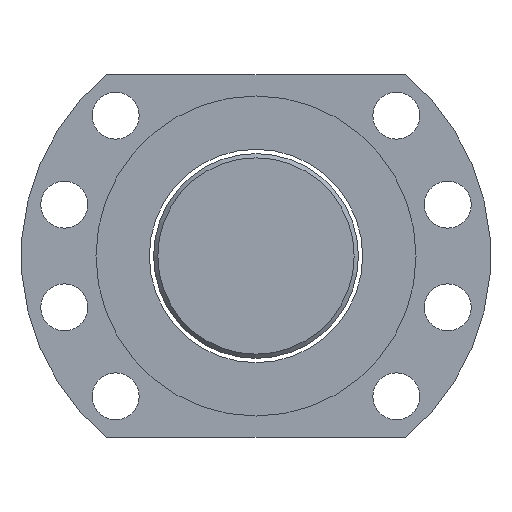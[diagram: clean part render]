
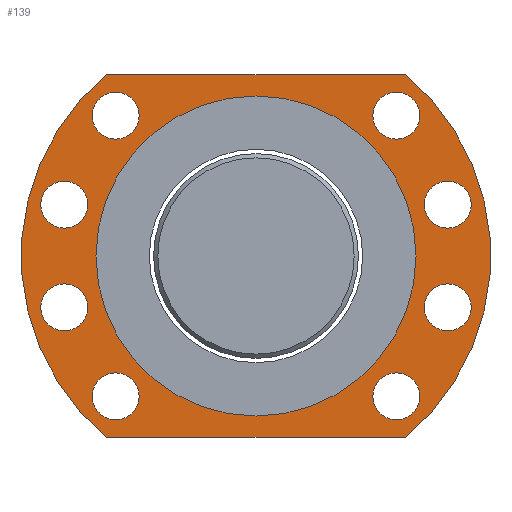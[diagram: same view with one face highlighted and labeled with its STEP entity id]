
A CAD part, left-side view. The second image highlights one B-rep face of the part: STEP entity #139.
In plain terms, the highlighted planar face has unit normal (-1, 0, 0).
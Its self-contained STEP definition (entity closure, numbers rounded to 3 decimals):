
#114=PLANE('',#489);
#123=LINE('',#680,#131);
#124=LINE('',#684,#132);
#131=VECTOR('',#562,1.);
#132=VECTOR('',#565,1.);
#139=ADVANCED_FACE('',(#187,#188,#189,#190,#191,#192,#193,#194,#195,#196),
#114,.T.);
#187=FACE_BOUND('',#239,.T.);
#188=FACE_BOUND('',#240,.T.);
#189=FACE_BOUND('',#241,.T.);
#190=FACE_BOUND('',#242,.T.);
#191=FACE_BOUND('',#243,.T.);
#192=FACE_BOUND('',#244,.T.);
#193=FACE_BOUND('',#245,.T.);
#194=FACE_BOUND('',#246,.T.);
#195=FACE_BOUND('',#247,.T.);
#196=FACE_BOUND('',#248,.T.);
#239=EDGE_LOOP('',(#300));
#240=EDGE_LOOP('',(#301));
#241=EDGE_LOOP('',(#302));
#242=EDGE_LOOP('',(#303));
#243=EDGE_LOOP('',(#304));
#244=EDGE_LOOP('',(#305,#306,#307,#308));
#245=EDGE_LOOP('',(#309));
#246=EDGE_LOOP('',(#310));
#247=EDGE_LOOP('',(#311));
#248=EDGE_LOOP('',(#312));
#300=ORIENTED_EDGE('',*,*,#409,.T.);
#301=ORIENTED_EDGE('',*,*,#410,.T.);
#302=ORIENTED_EDGE('',*,*,#411,.F.);
#303=ORIENTED_EDGE('',*,*,#412,.F.);
#304=ORIENTED_EDGE('',*,*,#413,.F.);
#305=ORIENTED_EDGE('',*,*,#414,.T.);
#306=ORIENTED_EDGE('',*,*,#415,.T.);
#307=ORIENTED_EDGE('',*,*,#416,.T.);
#308=ORIENTED_EDGE('',*,*,#417,.T.);
#309=ORIENTED_EDGE('',*,*,#418,.F.);
#310=ORIENTED_EDGE('',*,*,#419,.T.);
#311=ORIENTED_EDGE('',*,*,#420,.F.);
#312=ORIENTED_EDGE('',*,*,#421,.T.);
#375=VERTEX_POINT('',#668);
#376=VERTEX_POINT('',#670);
#377=VERTEX_POINT('',#672);
#378=VERTEX_POINT('',#674);
#379=VERTEX_POINT('',#676);
#380=VERTEX_POINT('',#678);
#381=VERTEX_POINT('',#679);
#382=VERTEX_POINT('',#681);
#383=VERTEX_POINT('',#683);
#384=VERTEX_POINT('',#686);
#385=VERTEX_POINT('',#688);
#386=VERTEX_POINT('',#690);
#387=VERTEX_POINT('',#692);
#409=EDGE_CURVE('',#375,#375,#445,.T.);
#410=EDGE_CURVE('',#376,#376,#446,.T.);
#411=EDGE_CURVE('',#377,#377,#447,.T.);
#412=EDGE_CURVE('',#378,#378,#448,.T.);
#413=EDGE_CURVE('',#379,#379,#449,.T.);
#414=EDGE_CURVE('',#380,#381,#450,.T.);
#415=EDGE_CURVE('',#381,#382,#123,.T.);
#416=EDGE_CURVE('',#382,#383,#451,.T.);
#417=EDGE_CURVE('',#383,#380,#124,.T.);
#418=EDGE_CURVE('',#384,#384,#452,.T.);
#419=EDGE_CURVE('',#385,#385,#453,.T.);
#420=EDGE_CURVE('',#386,#386,#454,.T.);
#421=EDGE_CURVE('',#387,#387,#455,.T.);
#445=CIRCLE('',#478,5.5);
#446=CIRCLE('',#479,5.5);
#447=CIRCLE('',#480,5.5);
#448=CIRCLE('',#481,5.5);
#449=CIRCLE('',#482,5.5);
#450=CIRCLE('',#483,55.);
#451=CIRCLE('',#484,55.);
#452=CIRCLE('',#485,37.5);
#453=CIRCLE('',#486,5.5);
#454=CIRCLE('',#487,5.5);
#455=CIRCLE('',#488,5.5);
#478=AXIS2_PLACEMENT_3D('',#667,#550,#551);
#479=AXIS2_PLACEMENT_3D('',#669,#552,#553);
#480=AXIS2_PLACEMENT_3D('',#671,#554,#555);
#481=AXIS2_PLACEMENT_3D('',#673,#556,#557);
#482=AXIS2_PLACEMENT_3D('',#675,#558,#559);
#483=AXIS2_PLACEMENT_3D('',#677,#560,#561);
#484=AXIS2_PLACEMENT_3D('',#682,#563,#564);
#485=AXIS2_PLACEMENT_3D('',#685,#566,#567);
#486=AXIS2_PLACEMENT_3D('',#687,#568,#569);
#487=AXIS2_PLACEMENT_3D('',#689,#570,#571);
#488=AXIS2_PLACEMENT_3D('',#691,#572,#573);
#489=AXIS2_PLACEMENT_3D('',#693,#574,#575);
#550=DIRECTION('',(1.,0.,0.));
#551=DIRECTION('',(0.,0.,1.));
#552=DIRECTION('',(1.,0.,0.));
#553=DIRECTION('',(0.,0.,1.));
#554=DIRECTION('',(-1.,0.,0.));
#555=DIRECTION('',(0.,0.,1.));
#556=DIRECTION('',(-1.,0.,0.));
#557=DIRECTION('',(0.,0.,1.));
#558=DIRECTION('',(-1.,0.,0.));
#559=DIRECTION('',(0.,0.,1.));
#560=DIRECTION('',(-1.,0.,0.));
#561=DIRECTION('',(0.,0.,-1.));
#562=DIRECTION('',(0.,-1.,0.));
#563=DIRECTION('',(-1.,0.,0.));
#564=DIRECTION('',(0.,0.,-1.));
#565=DIRECTION('',(0.,1.,0.));
#566=DIRECTION('',(-1.,0.,0.));
#567=DIRECTION('',(0.,0.,-1.));
#568=DIRECTION('',(1.,0.,0.));
#569=DIRECTION('',(0.,0.,1.));
#570=DIRECTION('',(-1.,0.,0.));
#571=DIRECTION('',(0.,0.,1.));
#572=DIRECTION('',(1.,0.,0.));
#573=DIRECTION('',(0.,0.,1.));
#574=DIRECTION('',(-1.,0.,0.));
#575=DIRECTION('',(0.,0.,-1.));
#667=CARTESIAN_POINT('',(485.903,44.185,22.805));
#668=CARTESIAN_POINT('',(485.903,44.185,28.305));
#669=CARTESIAN_POINT('',(485.903,56.22,-22.111));
#670=CARTESIAN_POINT('',(485.903,56.22,-16.611));
#671=CARTESIAN_POINT('',(485.903,121.981,-22.111));
#672=CARTESIAN_POINT('',(485.903,121.981,-16.611));
#673=CARTESIAN_POINT('',(485.903,134.016,22.805));
#674=CARTESIAN_POINT('',(485.903,134.016,28.305));
#675=CARTESIAN_POINT('',(485.903,134.016,-1.265));
#676=CARTESIAN_POINT('',(485.903,134.016,4.235));
#677=CARTESIAN_POINT('',(485.903,89.1,10.77));
#678=CARTESIAN_POINT('',(485.903,124.011,53.27));
#679=CARTESIAN_POINT('',(485.903,124.011,-31.73));
#680=CARTESIAN_POINT('',(485.903,124.011,-31.73));
#681=CARTESIAN_POINT('',(485.903,54.19,-31.73));
#682=CARTESIAN_POINT('',(485.903,89.1,10.77));
#683=CARTESIAN_POINT('',(485.903,54.19,53.27));
#684=CARTESIAN_POINT('',(485.903,54.19,53.27));
#685=CARTESIAN_POINT('',(485.903,89.1,10.77));
#686=CARTESIAN_POINT('',(485.903,89.1,-26.73));
#687=CARTESIAN_POINT('',(485.903,44.185,-1.265));
#688=CARTESIAN_POINT('',(485.903,44.185,4.235));
#689=CARTESIAN_POINT('',(485.903,121.981,43.65));
#690=CARTESIAN_POINT('',(485.903,121.981,49.15));
#691=CARTESIAN_POINT('',(485.903,56.22,43.65));
#692=CARTESIAN_POINT('',(485.903,56.22,49.15));
#693=CARTESIAN_POINT('',(485.903,89.1,10.77));
